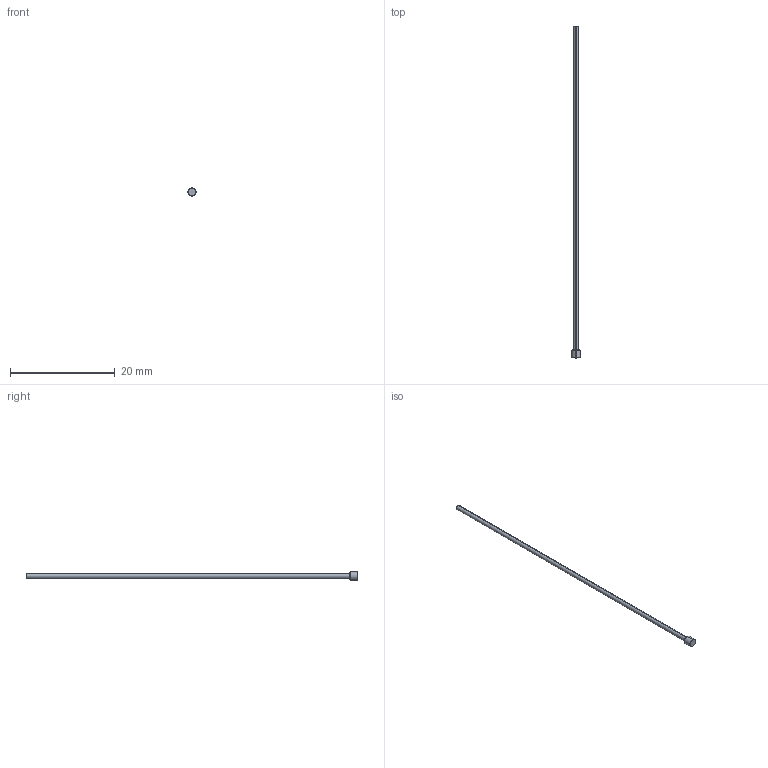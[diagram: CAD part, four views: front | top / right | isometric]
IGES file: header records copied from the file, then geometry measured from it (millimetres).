
Start section: SolidWorks IGES file using analytic representation for surfaces
Global section: file name: C:\temp\GO\Files\TI0360L2.5.igs; native system: SolidWorks 2023; preprocessor: SolidWorks 2023; author: andrew.sweeney; date: 250926.122559; units: inch
Bounding box: 1.57 x 63.5 x 1.57 mm (x, y, z)
Surface area: 189.2 mm2 (no closed solid volume)
Topology: 0 solids, 0 shells, 13 faces, 104 edges, 104 vertices
Faces by surface type: revolution 8, bspline 5
